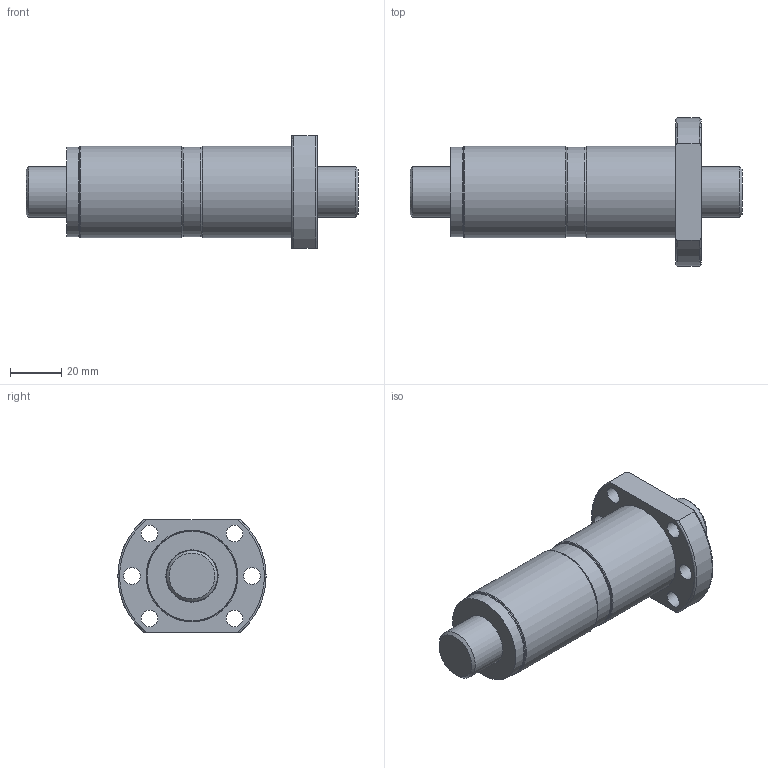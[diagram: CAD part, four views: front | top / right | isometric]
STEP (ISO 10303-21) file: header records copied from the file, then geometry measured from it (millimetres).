
FILE_DESCRIPTION(/* description */ (''),/* implementation_level */ '2;1');
FILE_NAME(/* name */ 'DFS2006',/* time_stamp */ '2007-10-26T13:33:03+08:00',/* author */ (''),/* organization */ (''),/* preprocessor_version */ 'ST-DEVELOPER v9',/* originating_system */ 'UGS - NX 3.0',/* authorisation */ '');
FILE_SCHEMA (('CONFIG_CONTROL_DESIGN'));
Length unit declared in the file: millimetre
Products named in the file (1): jaso15A4i31u
Bounding box: 130 x 58 x 44 mm (x, y, z)
Volume: 112708.2 mm3; surface area: 38820.2 mm2
Topology: 7 solids, 7 shells, 51 faces, 103 edges, 68 vertices
Faces by surface type: cylinder 22, plane 18, torus 9, cone 2
Full cylindrical faces by diameter (mm): 6.6 x6, 20 x1, 20.3 x1, 20.5 x2, 22 x2, 23 x1, 35 x4, 36 x3
Entity records: 1432 total; most frequent: CARTESIAN_POINT 336, DIRECTION 222, ORIENTED_EDGE 142, AXIS2_PLACEMENT_3D 107, EDGE_LOOP 104, FACE_BOUND 78, EDGE_CURVE 71, VERTEX_POINT 63
